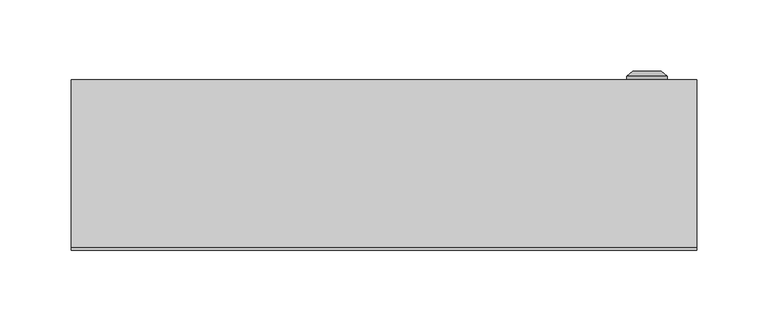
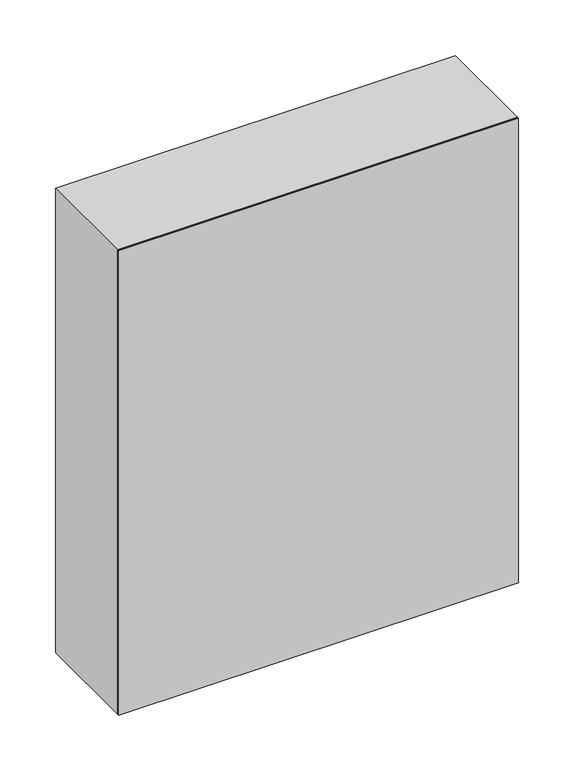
"""IFC4 building model written with IfcOpenShell, lengths in millimetres: proxy geometry, ЩРН_54 : ЩРН-54."""

from ifc_helpers import new_model, si_unit, frame, origin, origin_with_axes, place, context, project, spatial, polyline, circle_curve, outline, extrude, source, transform, mapped, element, save
from ifc_brep_helpers import plane_surface, cylinder_surface, revolved_surface, advanced_brep


def electrical_equipment_d48100c6(model_context):
    return source(origin(), model_context, "Body", "SolidModel", [
        advanced_brep(
        [(170.669873, 120.0, 265.0), (199.330127, 120.0, 265.0), (185.0, 120.0, 265.0), (170.669873, 122.366592, 265.0), (199.330127, 122.366592, 265.0), (175.0, 126.0, 265.0), (195.0, 126.0, 265.0), (183.1080471, 126.0, 265.0), (186.8919529, 126.0, 265.0), (183.1080471, 124.9822294, 265.0), (186.8919529, 124.9822294, 265.0), (185.0, 124.9822294, 265.0)],
        [
            (0, 1, circle_curve(frame((185.0, 120.0, 265.0), z_axis=(0.0, -1.0, 0.0), x_axis=(1.0, 0.0, 0.0)), 14.330127)),
            (1, 2),
            (2, 0),
            (1, 0, circle_curve(frame((185.0, 120.0, 265.0), z_axis=(0.0, -1.0, 0.0), x_axis=(1.0, 0.0, 0.0)), 14.330127)),
            (3, 4, circle_curve(frame((185.0, 122.366592, 265.0), z_axis=(0.0, -1.0, 0.0), x_axis=(1.0, 0.0, 0.0)), 14.330127)),
            (4, 1),
            (0, 3),
            (4, 3, circle_curve(frame((185.0, 122.366592, 265.0), z_axis=(0.0, -1.0, 0.0), x_axis=(1.0, 0.0, 0.0)), 14.330127)),
            (5, 6, circle_curve(frame((185.0, 126.0, 265.0), z_axis=(0.0, -1.0, 0.0), x_axis=(1.0, 0.0, 0.0)), 10.0)),
            (6, 4),
            (3, 5),
            (6, 5, circle_curve(frame((185.0, 126.0, 265.0), z_axis=(0.0, -1.0, 0.0), x_axis=(1.0, 0.0, 0.0)), 10.0)),
            (7, 8, circle_curve(frame((185.0, 126.0, 265.0), z_axis=(0.0, -1.0, 0.0), x_axis=(1.0, 0.0, 0.0)), 1.8919529)),
            (8, 6),
            (5, 7),
            (8, 7, circle_curve(frame((185.0, 126.0, 265.0), z_axis=(0.0, -1.0, 0.0), x_axis=(1.0, 0.0, 0.0)), 1.8919529)),
            (9, 10, circle_curve(frame((185.0, 124.9822294, 265.0), z_axis=(0.0, -1.0, 0.0), x_axis=(1.0, 0.0, 0.0)), 1.8919529)),
            (10, 8),
            (7, 9),
            (10, 9, circle_curve(frame((185.0, 124.9822294, 265.0), z_axis=(0.0, -1.0, 0.0), x_axis=(1.0, 0.0, 0.0)), 1.8919529)),
            (11, 10),
            (9, 11),
        ],
        [
            plane_surface(frame((185.0, 120.0, 265.0), z_axis=(0.0, -1.0, 0.0), x_axis=(1.0, 0.0, 0.0))),
            cylinder_surface(frame((185.0, 133.1348851, 265.0), z_axis=(0.0, 1.0, 0.0), x_axis=(1.0, 0.0, 0.0)), 14.330127),
            revolved_surface(polyline([(199.330127, 122.366592, 265.0), (195.0, 126.0, 265.0)]), (185.0, 133.1348851, 265.0), (0.0, 1.0, 0.0)),
            plane_surface(frame((185.0, 126.0, 265.0), z_axis=(0.0, 1.0, 0.0), x_axis=(1.0, 0.0, 0.0))),
            revolved_surface(polyline([(186.8919529, 126.0, 265.0), (186.8919529, 124.9822294, 265.0)]), (185.0, 133.1348851, 265.0), (0.0, 1.0, 0.0)),
            plane_surface(frame((185.0, 124.9822294, 265.0), z_axis=(0.0, 1.0, 0.0), x_axis=(1.0, 0.0, 0.0))),
        ],
        [
            (0, [[1, 2, 3]]),
            (0, [[4, -3, -2]]),
            (1, [[5, 6, -1, 7]]),
            (1, [[8, -7, -4, -6]]),
            (2, [[9, 10, -5, 11]]),
            (2, [[12, -11, -8, -10]]),
            (3, [[13, 14, -9, 15]]),
            (3, [[16, -15, -12, -14]]),
            (4, [[17, 18, -13, 19]]),
            (4, [[20, -19, -16, -18]]),
            (5, [[21, -17, 22]]),
            (5, [[-22, -20, -21]]),
        ],
    ),
        extrude(outline(polyline([(214.0, 95.0), (-214.0, 95.0), (-214.0, 120.0), (214.0, 120.0), (214.0, 95.0)])), frame((0.0, 0.0, 6.0), z_axis=(0.0, 0.0, 1.0), x_axis=(1.0, 0.0, 0.0)), (0.0, 0.0, 1.0), 528.0),
        extrude(outline(polyline([(540.0, -220.0033905), (0.0, -220.0033905), (0.0, 219.9966095), (540.0, 219.9966095), (540.0, -220.0033905)]), holes=[polyline([(535.0, -215.0), (535.0, 215.0), (5.0, 215.0), (5.0, -215.0), (535.0, -215.0)])]), frame((0.0, 2.0, 0.0), z_axis=(0.0, 1.0, 0.0), x_axis=(0.0, 0.0, 1.0)), (0.0, 0.0, 1.0), 118.0),
        extrude(outline(polyline([(220.0, 0.0), (-220.0, 0.0), (-220.0, 2.0), (220.0, 2.0), (220.0, 0.0)])), origin_with_axes(), (0.0, 0.0, 1.0), 540.0),
    ])


if __name__ == "__main__":
    model = new_model("IFC4")
    model_context = context("Model", 3, world=origin())
    ifc_project = project(units=[si_unit("LENGTHUNIT", "METRE", prefix="MILLI")], contexts=[model_context])
    site = spatial("IfcSite", under=ifc_project)
    building = spatial("IfcBuilding", under=site)
    placement = place(None, origin())
    electrical_equipment_shape = electrical_equipment_d48100c6(model_context)
    element("IfcBuildingElementProxy", 1, Name="ЩРН_54 : ЩРН-54", ObjectType="ЩРН_54 : ЩРН-54", at=placement, inside=building, context=model_context, shape_type="MappedRepresentation", body=[
        mapped(electrical_equipment_shape, transform((0.0, 0.0, 0.0), x_axis=(1.0, 0.0, 0.0), y_axis=(0.0, 1.0, 0.0), z_axis=(0.0, 0.0, 1.0))),
    ])
    save(model, "model.ifc")
